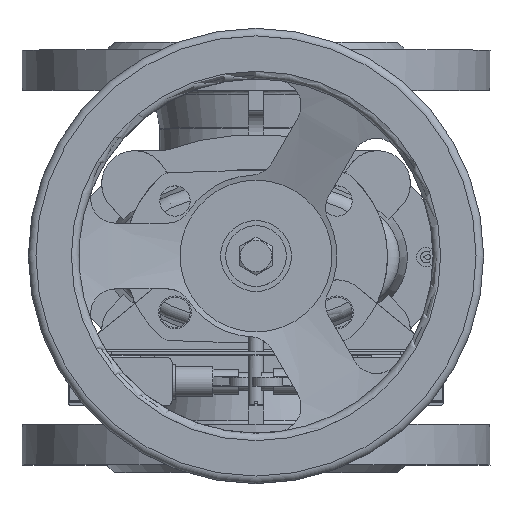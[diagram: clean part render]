
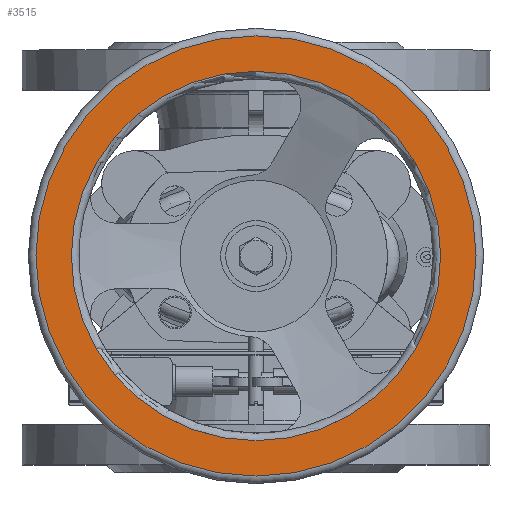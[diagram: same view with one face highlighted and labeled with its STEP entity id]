
A CAD part, top view. The second image highlights one B-rep face of the part: STEP entity #3515.
In plain terms, the highlighted planar face has unit normal (0, 0, 1).
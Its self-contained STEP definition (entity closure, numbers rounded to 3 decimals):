
#3515=ADVANCED_FACE('',(#6681,#6683),#6685,.T.);
#6681=FACE_BOUND('',#6682,.T.);
#6682=EDGE_LOOP('',(#8789));
#6683=FACE_BOUND('',#6684,.T.);
#6684=EDGE_LOOP('',(#8790));
#6685=PLANE('',#6686);
#6686=AXIS2_PLACEMENT_3D('',#6687,#6688,#6689);
#6687=CARTESIAN_POINT('',(0.,0.,366.));
#6688=DIRECTION('',(0.,0.,1.));
#6689=DIRECTION('',(0.,-1.,0.));
#8789=ORIENTED_EDGE('',*,*,#9805,.T.);
#8790=ORIENTED_EDGE('',*,*,#9802,.F.);
#9802=EDGE_CURVE('',#11416,#11416,#11417,.T.);
#9805=EDGE_CURVE('',#11422,#11422,#11423,.T.);
#11416=VERTEX_POINT('',#18588);
#11417=CIRCLE('',#18589,73.);
#11422=VERTEX_POINT('',#18603);
#11423=CIRCLE('',#18604,87.);
#18588=CARTESIAN_POINT('',(0.,-73.,366.));
#18589=AXIS2_PLACEMENT_3D('',#18590,#18591,#18592);
#18590=CARTESIAN_POINT('',(0.,0.,366.));
#18591=DIRECTION('',(0.,0.,1.));
#18592=DIRECTION('',(0.,-1.,0.));
#18603=CARTESIAN_POINT('',(0.,-87.,366.));
#18604=AXIS2_PLACEMENT_3D('',#18605,#18606,#18607);
#18605=CARTESIAN_POINT('',(0.,0.,366.));
#18606=DIRECTION('',(0.,0.,1.));
#18607=DIRECTION('',(0.,-1.,0.));
